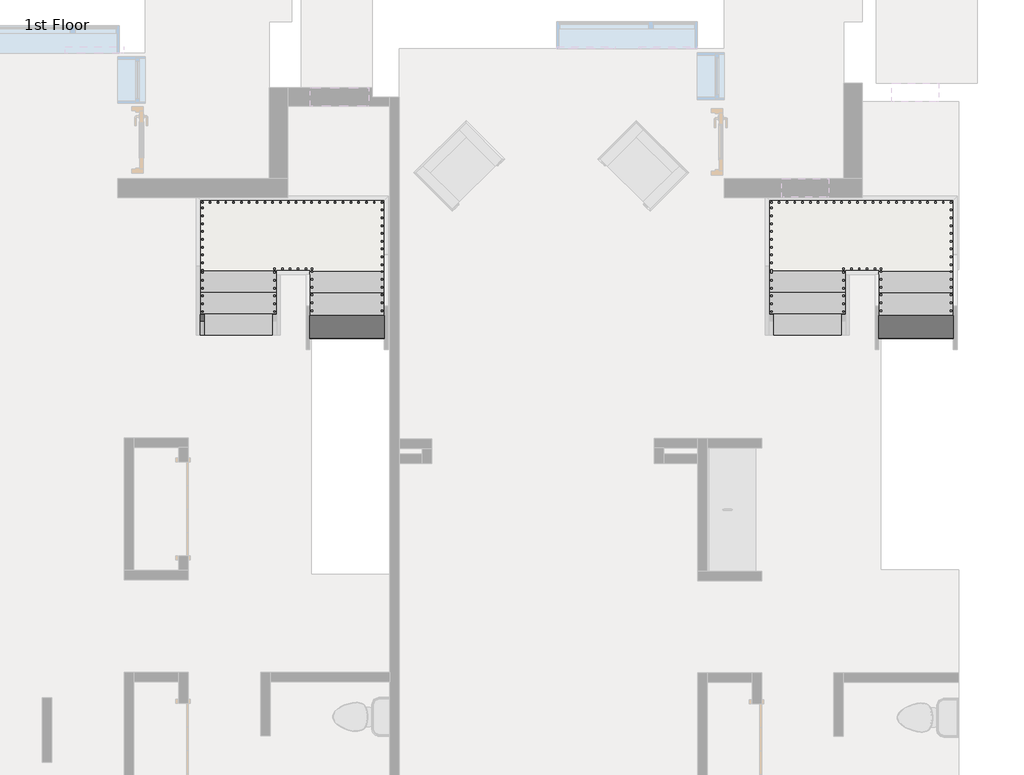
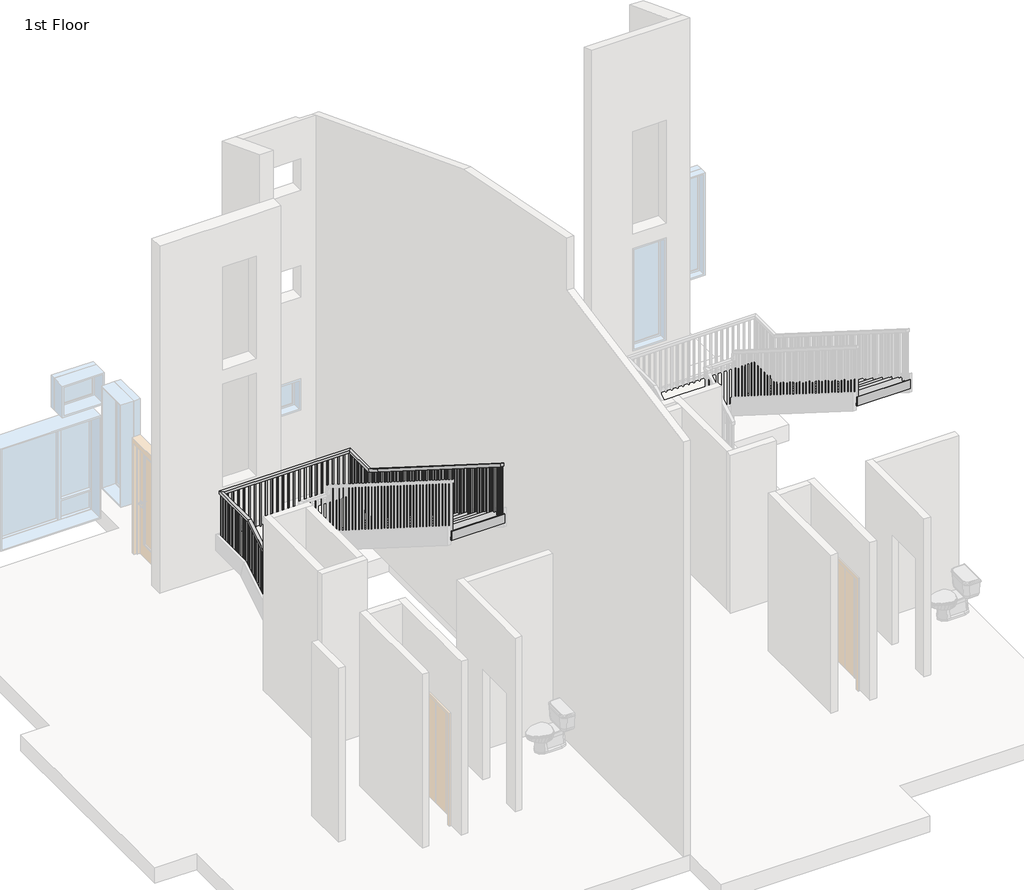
# One storey, part 3 of 6: 4 stair flights, 2 slabs, 1 railing.
"""IFC4 building model written with IfcOpenShell, lengths in millimetres."""

from ifc_helpers import new_model, si_unit, frame, origin, place, context, project, spatial, polyline, outline, extrude, faceted_brep, transform, mapped, element, save
from components import non_monolithic_landing_1753bc63, non_monolithic_landing_b7f252b9, stair_flight_88fc5b64, stair_flight_a2e6100f, stair_flight_c0ce1a1d, stair_flight_e12d16f7

model = new_model("IFC4")

# Units and contexts
model_context = context("Model", 3, world=origin())
ifc_project = project(units=[si_unit("LENGTHUNIT", "METRE", prefix="MILLI")], contexts=[model_context])

# Site, building, storey
site = spatial("IfcSite", under=ifc_project)
building = spatial("IfcBuilding", under=site)
storey = spatial("IfcBuildingStorey", under=building, Name="1st Floor", Elevation=0.0)

# Railing
placement = place(None, origin())
element("IfcRailing", 1, ObjectType="Handrail - Rectangular", at=placement, inside=storey, context=model_context, shape_type="SolidModel", body=[
    faceted_brep([(-4164.1663287, 2721.6563085, 1090.8631579), (-4164.1663287, 2721.6563085, 1030.7795781), (-4113.3663287, 2721.6563085, 1030.7795781), (-4113.3663287, 2721.6563085, 1090.8631579), (-4164.1663287, 3559.8563085, 1620.2526316), (-4164.1663287, 3574.5553099, 1569.4526316), (-4113.3663287, 3574.5553099, 1569.4526316), (-4113.3663287, 3559.8563085, 1620.2526316), (-4164.1663287, 4474.2563085, 1620.2526316), (-4164.1663287, 4474.2563085, 1569.4526316), (-4113.3663287, 4423.4563085, 1569.4526316), (-4113.3663287, 4423.4563085, 1620.2526316), (-1774.5571781, 4474.2563085, 1620.2526316), (-1774.5571781, 4474.2563085, 1569.4526316), (-1825.3571781, 4423.4563085, 1569.4526316), (-1825.3571781, 4423.4563085, 1620.2526316), (-1774.5571781, 3826.0563085, 1620.2526316), (-1774.5571781, 3811.3573071, 1569.4526316), (-1825.3571781, 3811.3573071, 1569.4526316), (-1825.3571781, 3826.0563085, 1620.2526316), (-1774.5571781, 3546.6563085, 1796.7157895), (-1774.5571781, 3519.5294646, 1753.7649532), (-1825.3571781, 3519.5294646, 1753.7649532), (-1825.3571781, 3546.6563085, 1796.7157895), (-1774.5571781, -364.9436915, 4267.2), (-1825.3571781, -364.9436915, 4267.2), (-1825.3571781, -364.9436915, 4207.1164202), (-1774.5571781, -364.9436915, 4207.1164202)], [[[0, 1, 2, 3]], [[1, 0, 4, 5]], [[2, 1, 5, 6]], [[3, 2, 6, 7]], [[0, 3, 7, 4]], [[5, 4, 8, 9]], [[6, 5, 9, 10]], [[7, 6, 10, 11]], [[4, 7, 11, 8]], [[9, 8, 12, 13]], [[10, 9, 13, 14]], [[11, 10, 14, 15]], [[8, 11, 15, 12]], [[13, 12, 16, 17]], [[14, 13, 17, 18]], [[15, 14, 18, 19]], [[12, 15, 19, 16]], [[17, 16, 20, 21]], [[18, 17, 21, 22]], [[19, 18, 22, 23]], [[16, 19, 23, 20]], [[24, 25, 26, 27]], [[21, 20, 24, 27]], [[22, 21, 27, 26]], [[23, 22, 26, 25]], [[20, 23, 25, 24]]]),
    extrude(outline(polyline([(-304.6186915, 4169.0164202), (-304.6186915, 3176.3368421), (-323.6686915, 3176.3368421), (-323.6686915, 4181.0479991), (-304.6186915, 4169.0164202)])), frame((-1809.4821781, 0.0, 0.0), z_axis=(1.0, 0.0, 0.0), x_axis=(0.0, 1.0, 0.0)), (0.0, 0.0, 1.0), 19.05),
    extrude(outline(polyline([(-203.0186915, 4104.8479991), (-203.0186915, 3176.3368421), (-222.0686915, 3176.3368421), (-222.0686915, 4116.8795781), (-203.0186915, 4104.8479991)])), frame((-1809.4821781, 0.0, 0.0), z_axis=(1.0, 0.0, 0.0), x_axis=(0.0, 1.0, 0.0)), (0.0, 0.0, 1.0), 19.05),
    extrude(outline(polyline([(-101.4186915, 4040.6795781), (-101.4186915, 3176.3368421), (-120.4686915, 3176.3368421), (-120.4686915, 4052.711157), (-101.4186915, 4040.6795781)])), frame((-1809.4821781, 0.0, 0.0), z_axis=(1.0, 0.0, 0.0), x_axis=(0.0, 1.0, 0.0)), (0.0, 0.0, 1.0), 19.05),
    extrude(outline(polyline([(0.1813085, 3976.511157), (0.1813085, 2999.8736842), (-18.8686915, 2999.8736842), (-18.8686915, 3988.542736), (0.1813085, 3976.511157)])), frame((-1809.4821781, 0.0, 0.0), z_axis=(1.0, 0.0, 0.0), x_axis=(0.0, 1.0, 0.0)), (0.0, 0.0, 1.0), 19.05),
    extrude(outline(polyline([(101.7813085, 3912.342736), (101.7813085, 2999.8736842), (82.7313085, 2999.8736842), (82.7313085, 3924.3743149), (101.7813085, 3912.342736)])), frame((-1809.4821781, 0.0, 0.0), z_axis=(1.0, 0.0, 0.0), x_axis=(0.0, 1.0, 0.0)), (0.0, 0.0, 1.0), 19.05),
    extrude(outline(polyline([(203.3813085, 3848.1743149), (203.3813085, 2999.8736842), (184.3313085, 2999.8736842), (184.3313085, 3860.2058939), (203.3813085, 3848.1743149)])), frame((-1809.4821781, 0.0, 0.0), z_axis=(1.0, 0.0, 0.0), x_axis=(0.0, 1.0, 0.0)), (0.0, 0.0, 1.0), 19.05),
    extrude(outline(polyline([(304.9813085, 3784.0058939), (304.9813085, 2823.4105263), (285.9313085, 2823.4105263), (285.9313085, 3796.0374728), (304.9813085, 3784.0058939)])), frame((-1809.4821781, 0.0, 0.0), z_axis=(1.0, 0.0, 0.0), x_axis=(0.0, 1.0, 0.0)), (0.0, 0.0, 1.0), 19.05),
    extrude(outline(polyline([(406.5813085, 3719.8374728), (406.5813085, 2823.4105263), (387.5313085, 2823.4105263), (387.5313085, 3731.8690517), (406.5813085, 3719.8374728)])), frame((-1809.4821781, 0.0, 0.0), z_axis=(1.0, 0.0, 0.0), x_axis=(0.0, 1.0, 0.0)), (0.0, 0.0, 1.0), 19.05),
    extrude(outline(polyline([(508.1813085, 3655.6690517), (508.1813085, 2646.9473684), (489.1313085, 2646.9473684), (489.1313085, 3667.7006307), (508.1813085, 3655.6690517)])), frame((-1809.4821781, 0.0, 0.0), z_axis=(1.0, 0.0, 0.0), x_axis=(0.0, 1.0, 0.0)), (0.0, 0.0, 1.0), 19.05),
    extrude(outline(polyline([(609.7813085, 3591.5006307), (609.7813085, 2646.9473684), (590.7313085, 2646.9473684), (590.7313085, 3603.5322096), (609.7813085, 3591.5006307)])), frame((-1809.4821781, 0.0, 0.0), z_axis=(1.0, 0.0, 0.0), x_axis=(0.0, 1.0, 0.0)), (0.0, 0.0, 1.0), 19.05),
    extrude(outline(polyline([(711.3813085, 3527.3322096), (711.3813085, 2646.9473684), (692.3313085, 2646.9473684), (692.3313085, 3539.3637886), (711.3813085, 3527.3322096)])), frame((-1809.4821781, 0.0, 0.0), z_axis=(1.0, 0.0, 0.0), x_axis=(0.0, 1.0, 0.0)), (0.0, 0.0, 1.0), 19.05),
    extrude(outline(polyline([(812.9813085, 3463.1637886), (812.9813085, 2470.4842105), (793.9313085, 2470.4842105), (793.9313085, 3475.1953675), (812.9813085, 3463.1637886)])), frame((-1809.4821781, 0.0, 0.0), z_axis=(1.0, 0.0, 0.0), x_axis=(0.0, 1.0, 0.0)), (0.0, 0.0, 1.0), 19.05),
    extrude(outline(polyline([(914.5813085, 3398.9953675), (914.5813085, 2470.4842105), (895.5313085, 2470.4842105), (895.5313085, 3411.0269465), (914.5813085, 3398.9953675)])), frame((-1809.4821781, 0.0, 0.0), z_axis=(1.0, 0.0, 0.0), x_axis=(0.0, 1.0, 0.0)), (0.0, 0.0, 1.0), 19.05),
    extrude(outline(polyline([(1016.1813085, 3334.8269465), (1016.1813085, 2470.4842105), (997.1313085, 2470.4842105), (997.1313085, 3346.8585254), (1016.1813085, 3334.8269465)])), frame((-1809.4821781, 0.0, 0.0), z_axis=(1.0, 0.0, 0.0), x_axis=(0.0, 1.0, 0.0)), (0.0, 0.0, 1.0), 19.05),
    extrude(outline(polyline([(1117.7813085, 3270.6585254), (1117.7813085, 2294.0210526), (1098.7313085, 2294.0210526), (1098.7313085, 3282.6901044), (1117.7813085, 3270.6585254)])), frame((-1809.4821781, 0.0, 0.0), z_axis=(1.0, 0.0, 0.0), x_axis=(0.0, 1.0, 0.0)), (0.0, 0.0, 1.0), 19.05),
    extrude(outline(polyline([(1219.3813085, 3206.4901044), (1219.3813085, 2294.0210526), (1200.3313085, 2294.0210526), (1200.3313085, 3218.5216833), (1219.3813085, 3206.4901044)])), frame((-1809.4821781, 0.0, 0.0), z_axis=(1.0, 0.0, 0.0), x_axis=(0.0, 1.0, 0.0)), (0.0, 0.0, 1.0), 19.05),
    extrude(outline(polyline([(1320.9813085, 3142.3216833), (1320.9813085, 2294.0210526), (1301.9313085, 2294.0210526), (1301.9313085, 3154.3532623), (1320.9813085, 3142.3216833)])), frame((-1809.4821781, 0.0, 0.0), z_axis=(1.0, 0.0, 0.0), x_axis=(0.0, 1.0, 0.0)), (0.0, 0.0, 1.0), 19.05),
    extrude(outline(polyline([(1422.5813085, 3078.1532623), (1422.5813085, 2117.5578947), (1403.5313085, 2117.5578947), (1403.5313085, 3090.1848412), (1422.5813085, 3078.1532623)])), frame((-1809.4821781, 0.0, 0.0), z_axis=(1.0, 0.0, 0.0), x_axis=(0.0, 1.0, 0.0)), (0.0, 0.0, 1.0), 19.05),
    extrude(outline(polyline([(1524.1813085, 3013.9848412), (1524.1813085, 2117.5578947), (1505.1313085, 2117.5578947), (1505.1313085, 3026.0164202), (1524.1813085, 3013.9848412)])), frame((-1809.4821781, 0.0, 0.0), z_axis=(1.0, 0.0, 0.0), x_axis=(0.0, 1.0, 0.0)), (0.0, 0.0, 1.0), 19.05),
    extrude(outline(polyline([(1625.7813085, 2949.8164202), (1625.7813085, 1941.0947368), (1606.7313085, 1941.0947368), (1606.7313085, 2961.8479991), (1625.7813085, 2949.8164202)])), frame((-1809.4821781, 0.0, 0.0), z_axis=(1.0, 0.0, 0.0), x_axis=(0.0, 1.0, 0.0)), (0.0, 0.0, 1.0), 19.05),
    extrude(outline(polyline([(1727.3813085, 2885.6479991), (1727.3813085, 1941.0947368), (1708.3313085, 1941.0947368), (1708.3313085, 2897.6795781), (1727.3813085, 2885.6479991)])), frame((-1809.4821781, 0.0, 0.0), z_axis=(1.0, 0.0, 0.0), x_axis=(0.0, 1.0, 0.0)), (0.0, 0.0, 1.0), 19.05),
    extrude(outline(polyline([(1828.9813085, 2821.4795781), (1828.9813085, 1941.0947368), (1809.9313085, 1941.0947368), (1809.9313085, 2833.511157), (1828.9813085, 2821.4795781)])), frame((-1809.4821781, 0.0, 0.0), z_axis=(1.0, 0.0, 0.0), x_axis=(0.0, 1.0, 0.0)), (0.0, 0.0, 1.0), 19.05),
    extrude(outline(polyline([(1930.5813085, 2757.311157), (1930.5813085, 1764.6315789), (1911.5313085, 1764.6315789), (1911.5313085, 2769.342736), (1930.5813085, 2757.311157)])), frame((-1809.4821781, 0.0, 0.0), z_axis=(1.0, 0.0, 0.0), x_axis=(0.0, 1.0, 0.0)), (0.0, 0.0, 1.0), 19.05),
    extrude(outline(polyline([(2032.1813085, 2693.142736), (2032.1813085, 1764.6315789), (2013.1313085, 1764.6315789), (2013.1313085, 2705.1743149), (2032.1813085, 2693.142736)])), frame((-1809.4821781, 0.0, 0.0), z_axis=(1.0, 0.0, 0.0), x_axis=(0.0, 1.0, 0.0)), (0.0, 0.0, 1.0), 19.05),
    extrude(outline(polyline([(2133.7813085, 2628.9743149), (2133.7813085, 1764.6315789), (2114.7313085, 1764.6315789), (2114.7313085, 2641.0058939), (2133.7813085, 2628.9743149)])), frame((-1809.4821781, 0.0, 0.0), z_axis=(1.0, 0.0, 0.0), x_axis=(0.0, 1.0, 0.0)), (0.0, 0.0, 1.0), 19.05),
    extrude(outline(polyline([(2235.3813085, 2564.8058939), (2235.3813085, 1588.1684211), (2216.3313085, 1588.1684211), (2216.3313085, 2576.8374728), (2235.3813085, 2564.8058939)])), frame((-1809.4821781, 0.0, 0.0), z_axis=(1.0, 0.0, 0.0), x_axis=(0.0, 1.0, 0.0)), (0.0, 0.0, 1.0), 19.05),
    extrude(outline(polyline([(2336.9813085, 2500.6374728), (2336.9813085, 1588.1684211), (2317.9313085, 1588.1684211), (2317.9313085, 2512.6690517), (2336.9813085, 2500.6374728)])), frame((-1809.4821781, 0.0, 0.0), z_axis=(1.0, 0.0, 0.0), x_axis=(0.0, 1.0, 0.0)), (0.0, 0.0, 1.0), 19.05),
    extrude(outline(polyline([(2438.5813085, 2436.4690517), (2438.5813085, 1588.1684211), (2419.5313085, 1588.1684211), (2419.5313085, 2448.5006307), (2438.5813085, 2436.4690517)])), frame((-1809.4821781, 0.0, 0.0), z_axis=(1.0, 0.0, 0.0), x_axis=(0.0, 1.0, 0.0)), (0.0, 0.0, 1.0), 19.05),
    extrude(outline(polyline([(2540.1813085, 2372.3006307), (2540.1813085, 1411.7052632), (2521.1313085, 1411.7052632), (2521.1313085, 2384.3322096), (2540.1813085, 2372.3006307)])), frame((-1809.4821781, 0.0, 0.0), z_axis=(1.0, 0.0, 0.0), x_axis=(0.0, 1.0, 0.0)), (0.0, 0.0, 1.0), 19.05),
    extrude(outline(polyline([(2641.7813085, 2308.1322096), (2641.7813085, 1411.7052632), (2622.7313085, 1411.7052632), (2622.7313085, 2320.1637886), (2641.7813085, 2308.1322096)])), frame((-1809.4821781, 0.0, 0.0), z_axis=(1.0, 0.0, 0.0), x_axis=(0.0, 1.0, 0.0)), (0.0, 0.0, 1.0), 19.05),
    extrude(outline(polyline([(2743.3813085, 2243.9637886), (2743.3813085, 1235.2421053), (2724.3313085, 1235.2421053), (2724.3313085, 2255.9953675), (2743.3813085, 2243.9637886)])), frame((-1809.4821781, 0.0, 0.0), z_axis=(1.0, 0.0, 0.0), x_axis=(0.0, 1.0, 0.0)), (0.0, 0.0, 1.0), 19.05),
    extrude(outline(polyline([(2844.9813085, 2179.7953675), (2844.9813085, 1235.2421053), (2825.9313085, 1235.2421053), (2825.9313085, 2191.8269465), (2844.9813085, 2179.7953675)])), frame((-1809.4821781, 0.0, 0.0), z_axis=(1.0, 0.0, 0.0), x_axis=(0.0, 1.0, 0.0)), (0.0, 0.0, 1.0), 19.05),
    extrude(outline(polyline([(2946.5813085, 2115.6269465), (2946.5813085, 1235.2421053), (2927.5313085, 1235.2421053), (2927.5313085, 2127.6585254), (2946.5813085, 2115.6269465)])), frame((-1809.4821781, 0.0, 0.0), z_axis=(1.0, 0.0, 0.0), x_axis=(0.0, 1.0, 0.0)), (0.0, 0.0, 1.0), 19.05),
    extrude(outline(polyline([(3048.1813085, 2051.4585254), (3048.1813085, 1058.7789474), (3029.1313085, 1058.7789474), (3029.1313085, 2063.4901044), (3048.1813085, 2051.4585254)])), frame((-1809.4821781, 0.0, 0.0), z_axis=(1.0, 0.0, 0.0), x_axis=(0.0, 1.0, 0.0)), (0.0, 0.0, 1.0), 19.05),
    extrude(outline(polyline([(3149.7813085, 1987.2901044), (3149.7813085, 1058.7789474), (3130.7313085, 1058.7789474), (3130.7313085, 1999.3216833), (3149.7813085, 1987.2901044)])), frame((-1809.4821781, 0.0, 0.0), z_axis=(1.0, 0.0, 0.0), x_axis=(0.0, 1.0, 0.0)), (0.0, 0.0, 1.0), 19.05),
    extrude(outline(polyline([(3251.3813085, 1923.1216833), (3251.3813085, 1058.7789474), (3232.3313085, 1058.7789474), (3232.3313085, 1935.1532623), (3251.3813085, 1923.1216833)])), frame((-1809.4821781, 0.0, 0.0), z_axis=(1.0, 0.0, 0.0), x_axis=(0.0, 1.0, 0.0)), (0.0, 0.0, 1.0), 19.05),
    extrude(outline(polyline([(3352.9813085, 1858.9532623), (3352.9813085, 882.3157895), (3333.9313085, 882.3157895), (3333.9313085, 1870.9848412), (3352.9813085, 1858.9532623)])), frame((-1809.4821781, 0.0, 0.0), z_axis=(1.0, 0.0, 0.0), x_axis=(0.0, 1.0, 0.0)), (0.0, 0.0, 1.0), 19.05),
    extrude(outline(polyline([(3454.5813085, 1794.7848412), (3454.5813085, 882.3157895), (3435.5313085, 882.3157895), (3435.5313085, 1806.8164202), (3454.5813085, 1794.7848412)])), frame((-1809.4821781, 0.0, 0.0), z_axis=(1.0, 0.0, 0.0), x_axis=(0.0, 1.0, 0.0)), (0.0, 0.0, 1.0), 19.05),
    extrude(outline(polyline([(3645.5813085, 1674.1532623), (3645.5813085, 705.8526316), (3626.5313085, 705.8526316), (3626.5313085, 1686.1848412), (3645.5813085, 1674.1532623)])), frame((-1809.4821781, 0.0, 0.0), z_axis=(1.0, 0.0, 0.0), x_axis=(0.0, 1.0, 0.0)), (0.0, 0.0, 1.0), 19.05),
    extrude(outline(polyline([(3747.1813085, 1609.9848412), (3747.1813085, 705.8526316), (3728.1313085, 705.8526316), (3728.1313085, 1622.0164202), (3747.1813085, 1609.9848412)])), frame((-1809.4821781, 0.0, 0.0), z_axis=(1.0, 0.0, 0.0), x_axis=(0.0, 1.0, 0.0)), (0.0, 0.0, 1.0), 19.05),
    extrude(outline(polyline([(-1790.4321781, 3848.7813085), (-1790.4321781, 3829.7313085), (-1809.4821781, 3829.7313085), (-1809.4821781, 3848.7813085), (-1790.4321781, 3848.7813085)])), frame((0.0, 0.0, 705.8526316), z_axis=(0.0, 0.0, 1.0), x_axis=(1.0, 0.0, 0.0)), (0.0, 0.0, 1.0), 863.6),
    extrude(outline(polyline([(-1790.4321781, 3950.3813085), (-1790.4321781, 3931.3313085), (-1809.4821781, 3931.3313085), (-1809.4821781, 3950.3813085), (-1790.4321781, 3950.3813085)])), frame((0.0, 0.0, 705.8526316), z_axis=(0.0, 0.0, 1.0), x_axis=(1.0, 0.0, 0.0)), (0.0, 0.0, 1.0), 863.6),
    extrude(outline(polyline([(-1790.4321781, 4051.9813085), (-1790.4321781, 4032.9313085), (-1809.4821781, 4032.9313085), (-1809.4821781, 4051.9813085), (-1790.4321781, 4051.9813085)])), frame((0.0, 0.0, 705.8526316), z_axis=(0.0, 0.0, 1.0), x_axis=(1.0, 0.0, 0.0)), (0.0, 0.0, 1.0), 863.6),
    extrude(outline(polyline([(-1790.4321781, 4153.5813085), (-1790.4321781, 4134.5313085), (-1809.4821781, 4134.5313085), (-1809.4821781, 4153.5813085), (-1790.4321781, 4153.5813085)])), frame((0.0, 0.0, 705.8526316), z_axis=(0.0, 0.0, 1.0), x_axis=(1.0, 0.0, 0.0)), (0.0, 0.0, 1.0), 863.6),
    extrude(outline(polyline([(-1790.4321781, 4255.1813085), (-1790.4321781, 4236.1313085), (-1809.4821781, 4236.1313085), (-1809.4821781, 4255.1813085), (-1790.4321781, 4255.1813085)])), frame((0.0, 0.0, 705.8526316), z_axis=(0.0, 0.0, 1.0), x_axis=(1.0, 0.0, 0.0)), (0.0, 0.0, 1.0), 863.6),
    extrude(outline(polyline([(-1790.4321781, 4356.7813085), (-1790.4321781, 4337.7313085), (-1809.4821781, 4337.7313085), (-1809.4821781, 4356.7813085), (-1790.4321781, 4356.7813085)])), frame((0.0, 0.0, 705.8526316), z_axis=(0.0, 0.0, 1.0), x_axis=(1.0, 0.0, 0.0)), (0.0, 0.0, 1.0), 863.6),
    extrude(outline(polyline([(-1811.4913287, 4458.3813085), (-1792.4413287, 4458.3813085), (-1792.4413287, 4439.3313085), (-1811.4913287, 4439.3313085), (-1811.4913287, 4458.3813085)])), frame((0.0, 0.0, 705.8526316), z_axis=(0.0, 0.0, 1.0), x_axis=(1.0, 0.0, 0.0)), (0.0, 0.0, 1.0), 863.6),
    extrude(outline(polyline([(-1913.0913287, 4458.3813085), (-1894.0413287, 4458.3813085), (-1894.0413287, 4439.3313085), (-1913.0913287, 4439.3313085), (-1913.0913287, 4458.3813085)])), frame((0.0, 0.0, 705.8526316), z_axis=(0.0, 0.0, 1.0), x_axis=(1.0, 0.0, 0.0)), (0.0, 0.0, 1.0), 863.6),
    extrude(outline(polyline([(-2014.6913287, 4458.3813085), (-1995.6413287, 4458.3813085), (-1995.6413287, 4439.3313085), (-2014.6913287, 4439.3313085), (-2014.6913287, 4458.3813085)])), frame((0.0, 0.0, 705.8526316), z_axis=(0.0, 0.0, 1.0), x_axis=(1.0, 0.0, 0.0)), (0.0, 0.0, 1.0), 863.6),
    extrude(outline(polyline([(-2116.2913287, 4458.3813085), (-2097.2413287, 4458.3813085), (-2097.2413287, 4439.3313085), (-2116.2913287, 4439.3313085), (-2116.2913287, 4458.3813085)])), frame((0.0, 0.0, 705.8526316), z_axis=(0.0, 0.0, 1.0), x_axis=(1.0, 0.0, 0.0)), (0.0, 0.0, 1.0), 863.6),
    extrude(outline(polyline([(-2217.8913287, 4458.3813085), (-2198.8413287, 4458.3813085), (-2198.8413287, 4439.3313085), (-2217.8913287, 4439.3313085), (-2217.8913287, 4458.3813085)])), frame((0.0, 0.0, 705.8526316), z_axis=(0.0, 0.0, 1.0), x_axis=(1.0, 0.0, 0.0)), (0.0, 0.0, 1.0), 863.6),
    extrude(outline(polyline([(-2319.4913287, 4458.3813085), (-2300.4413287, 4458.3813085), (-2300.4413287, 4439.3313085), (-2319.4913287, 4439.3313085), (-2319.4913287, 4458.3813085)])), frame((0.0, 0.0, 705.8526316), z_axis=(0.0, 0.0, 1.0), x_axis=(1.0, 0.0, 0.0)), (0.0, 0.0, 1.0), 863.6),
    extrude(outline(polyline([(-2421.0913287, 4458.3813085), (-2402.0413287, 4458.3813085), (-2402.0413287, 4439.3313085), (-2421.0913287, 4439.3313085), (-2421.0913287, 4458.3813085)])), frame((0.0, 0.0, 705.8526316), z_axis=(0.0, 0.0, 1.0), x_axis=(1.0, 0.0, 0.0)), (0.0, 0.0, 1.0), 863.6),
    extrude(outline(polyline([(-2522.6913287, 4458.3813085), (-2503.6413287, 4458.3813085), (-2503.6413287, 4439.3313085), (-2522.6913287, 4439.3313085), (-2522.6913287, 4458.3813085)])), frame((0.0, 0.0, 705.8526316), z_axis=(0.0, 0.0, 1.0), x_axis=(1.0, 0.0, 0.0)), (0.0, 0.0, 1.0), 863.6),
    extrude(outline(polyline([(-2624.2913287, 4458.3813085), (-2605.2413287, 4458.3813085), (-2605.2413287, 4439.3313085), (-2624.2913287, 4439.3313085), (-2624.2913287, 4458.3813085)])), frame((0.0, 0.0, 705.8526316), z_axis=(0.0, 0.0, 1.0), x_axis=(1.0, 0.0, 0.0)), (0.0, 0.0, 1.0), 863.6),
    extrude(outline(polyline([(-2725.8913287, 4458.3813085), (-2706.8413287, 4458.3813085), (-2706.8413287, 4439.3313085), (-2725.8913287, 4439.3313085), (-2725.8913287, 4458.3813085)])), frame((0.0, 0.0, 705.8526316), z_axis=(0.0, 0.0, 1.0), x_axis=(1.0, 0.0, 0.0)), (0.0, 0.0, 1.0), 863.6),
    extrude(outline(polyline([(-2827.4913287, 4458.3813085), (-2808.4413287, 4458.3813085), (-2808.4413287, 4439.3313085), (-2827.4913287, 4439.3313085), (-2827.4913287, 4458.3813085)])), frame((0.0, 0.0, 705.8526316), z_axis=(0.0, 0.0, 1.0), x_axis=(1.0, 0.0, 0.0)), (0.0, 0.0, 1.0), 863.6),
    extrude(outline(polyline([(-2929.0913287, 4458.3813085), (-2910.0413287, 4458.3813085), (-2910.0413287, 4439.3313085), (-2929.0913287, 4439.3313085), (-2929.0913287, 4458.3813085)])), frame((0.0, 0.0, 705.8526316), z_axis=(0.0, 0.0, 1.0), x_axis=(1.0, 0.0, 0.0)), (0.0, 0.0, 1.0), 863.6),
    extrude(outline(polyline([(-3030.6913287, 4458.3813085), (-3011.6413287, 4458.3813085), (-3011.6413287, 4439.3313085), (-3030.6913287, 4439.3313085), (-3030.6913287, 4458.3813085)])), frame((0.0, 0.0, 705.8526316), z_axis=(0.0, 0.0, 1.0), x_axis=(1.0, 0.0, 0.0)), (0.0, 0.0, 1.0), 863.6),
    extrude(outline(polyline([(-3132.2913287, 4458.3813085), (-3113.2413287, 4458.3813085), (-3113.2413287, 4439.3313085), (-3132.2913287, 4439.3313085), (-3132.2913287, 4458.3813085)])), frame((0.0, 0.0, 705.8526316), z_axis=(0.0, 0.0, 1.0), x_axis=(1.0, 0.0, 0.0)), (0.0, 0.0, 1.0), 863.6),
    extrude(outline(polyline([(-3233.8913287, 4458.3813085), (-3214.8413287, 4458.3813085), (-3214.8413287, 4439.3313085), (-3233.8913287, 4439.3313085), (-3233.8913287, 4458.3813085)])), frame((0.0, 0.0, 705.8526316), z_axis=(0.0, 0.0, 1.0), x_axis=(1.0, 0.0, 0.0)), (0.0, 0.0, 1.0), 863.6),
    extrude(outline(polyline([(-3335.4913287, 4458.3813085), (-3316.4413287, 4458.3813085), (-3316.4413287, 4439.3313085), (-3335.4913287, 4439.3313085), (-3335.4913287, 4458.3813085)])), frame((0.0, 0.0, 705.8526316), z_axis=(0.0, 0.0, 1.0), x_axis=(1.0, 0.0, 0.0)), (0.0, 0.0, 1.0), 863.6),
    extrude(outline(polyline([(-3437.0913287, 4458.3813085), (-3418.0413287, 4458.3813085), (-3418.0413287, 4439.3313085), (-3437.0913287, 4439.3313085), (-3437.0913287, 4458.3813085)])), frame((0.0, 0.0, 705.8526316), z_axis=(0.0, 0.0, 1.0), x_axis=(1.0, 0.0, 0.0)), (0.0, 0.0, 1.0), 863.6),
    extrude(outline(polyline([(-3538.6913287, 4458.3813085), (-3519.6413287, 4458.3813085), (-3519.6413287, 4439.3313085), (-3538.6913287, 4439.3313085), (-3538.6913287, 4458.3813085)])), frame((0.0, 0.0, 705.8526316), z_axis=(0.0, 0.0, 1.0), x_axis=(1.0, 0.0, 0.0)), (0.0, 0.0, 1.0), 863.6),
    extrude(outline(polyline([(-3640.2913287, 4458.3813085), (-3621.2413287, 4458.3813085), (-3621.2413287, 4439.3313085), (-3640.2913287, 4439.3313085), (-3640.2913287, 4458.3813085)])), frame((0.0, 0.0, 705.8526316), z_axis=(0.0, 0.0, 1.0), x_axis=(1.0, 0.0, 0.0)), (0.0, 0.0, 1.0), 863.6),
    extrude(outline(polyline([(-3741.8913287, 4458.3813085), (-3722.8413287, 4458.3813085), (-3722.8413287, 4439.3313085), (-3741.8913287, 4439.3313085), (-3741.8913287, 4458.3813085)])), frame((0.0, 0.0, 705.8526316), z_axis=(0.0, 0.0, 1.0), x_axis=(1.0, 0.0, 0.0)), (0.0, 0.0, 1.0), 863.6),
    extrude(outline(polyline([(-3843.4913287, 4458.3813085), (-3824.4413287, 4458.3813085), (-3824.4413287, 4439.3313085), (-3843.4913287, 4439.3313085), (-3843.4913287, 4458.3813085)])), frame((0.0, 0.0, 705.8526316), z_axis=(0.0, 0.0, 1.0), x_axis=(1.0, 0.0, 0.0)), (0.0, 0.0, 1.0), 863.6),
    extrude(outline(polyline([(-3945.0913287, 4458.3813085), (-3926.0413287, 4458.3813085), (-3926.0413287, 4439.3313085), (-3945.0913287, 4439.3313085), (-3945.0913287, 4458.3813085)])), frame((0.0, 0.0, 705.8526316), z_axis=(0.0, 0.0, 1.0), x_axis=(1.0, 0.0, 0.0)), (0.0, 0.0, 1.0), 863.6),
    extrude(outline(polyline([(-4046.6913287, 4458.3813085), (-4027.6413287, 4458.3813085), (-4027.6413287, 4439.3313085), (-4046.6913287, 4439.3313085), (-4046.6913287, 4458.3813085)])), frame((0.0, 0.0, 705.8526316), z_axis=(0.0, 0.0, 1.0), x_axis=(1.0, 0.0, 0.0)), (0.0, 0.0, 1.0), 863.6),
    extrude(outline(polyline([(-4148.2913287, 4363.1313085), (-4148.2913287, 4382.1813085), (-4129.2413287, 4382.1813085), (-4129.2413287, 4363.1313085), (-4148.2913287, 4363.1313085)])), frame((0.0, 0.0, 705.8526316), z_axis=(0.0, 0.0, 1.0), x_axis=(1.0, 0.0, 0.0)), (0.0, 0.0, 1.0), 863.6),
    extrude(outline(polyline([(-4148.2913287, 4261.5313085), (-4148.2913287, 4280.5813085), (-4129.2413287, 4280.5813085), (-4129.2413287, 4261.5313085), (-4148.2913287, 4261.5313085)])), frame((0.0, 0.0, 705.8526316), z_axis=(0.0, 0.0, 1.0), x_axis=(1.0, 0.0, 0.0)), (0.0, 0.0, 1.0), 863.6),
    extrude(outline(polyline([(-4148.2913287, 4159.9313085), (-4148.2913287, 4178.9813085), (-4129.2413287, 4178.9813085), (-4129.2413287, 4159.9313085), (-4148.2913287, 4159.9313085)])), frame((0.0, 0.0, 705.8526316), z_axis=(0.0, 0.0, 1.0), x_axis=(1.0, 0.0, 0.0)), (0.0, 0.0, 1.0), 863.6),
    extrude(outline(polyline([(-4148.2913287, 4058.3313085), (-4148.2913287, 4077.3813085), (-4129.2413287, 4077.3813085), (-4129.2413287, 4058.3313085), (-4148.2913287, 4058.3313085)])), frame((0.0, 0.0, 705.8526316), z_axis=(0.0, 0.0, 1.0), x_axis=(1.0, 0.0, 0.0)), (0.0, 0.0, 1.0), 863.6),
    extrude(outline(polyline([(-4148.2913287, 3956.7313085), (-4148.2913287, 3975.7813085), (-4129.2413287, 3975.7813085), (-4129.2413287, 3956.7313085), (-4148.2913287, 3956.7313085)])), frame((0.0, 0.0, 705.8526316), z_axis=(0.0, 0.0, 1.0), x_axis=(1.0, 0.0, 0.0)), (0.0, 0.0, 1.0), 863.6),
    extrude(outline(polyline([(-4148.2913287, 3855.1313085), (-4148.2913287, 3874.1813085), (-4129.2413287, 3874.1813085), (-4129.2413287, 3855.1313085), (-4148.2913287, 3855.1313085)])), frame((0.0, 0.0, 705.8526316), z_axis=(0.0, 0.0, 1.0), x_axis=(1.0, 0.0, 0.0)), (0.0, 0.0, 1.0), 863.6),
    extrude(outline(polyline([(-4148.2913287, 3753.5313085), (-4148.2913287, 3772.5813085), (-4129.2413287, 3772.5813085), (-4129.2413287, 3753.5313085), (-4148.2913287, 3753.5313085)])), frame((0.0, 0.0, 705.8526316), z_axis=(0.0, 0.0, 1.0), x_axis=(1.0, 0.0, 0.0)), (0.0, 0.0, 1.0), 863.6),
    extrude(outline(polyline([(-4148.2913287, 3651.9313085), (-4148.2913287, 3670.9813085), (-4129.2413287, 3670.9813085), (-4129.2413287, 3651.9313085), (-4148.2913287, 3651.9313085)])), frame((0.0, 0.0, 705.8526316), z_axis=(0.0, 0.0, 1.0), x_axis=(1.0, 0.0, 0.0)), (0.0, 0.0, 1.0), 863.6),
    extrude(outline(polyline([(3543.9813085, 1550.142736), (3543.9813085, 529.3894737), (3524.9313085, 529.3894737), (3524.9313085, 1538.111157), (3543.9813085, 1550.142736)])), frame((-4148.2913287, 0.0, 0.0), z_axis=(1.0, 0.0, 0.0), x_axis=(0.0, 1.0, 0.0)), (0.0, 0.0, 1.0), 19.05),
    extrude(outline(polyline([(3442.3813085, 1485.9743149), (3442.3813085, 529.3894737), (3423.3313085, 529.3894737), (3423.3313085, 1473.942736), (3442.3813085, 1485.9743149)])), frame((-4148.2913287, 0.0, 0.0), z_axis=(1.0, 0.0, 0.0), x_axis=(0.0, 1.0, 0.0)), (0.0, 0.0, 1.0), 19.05),
    extrude(outline(polyline([(3340.7813085, 1421.8058939), (3340.7813085, 529.3894737), (3321.7313085, 529.3894737), (3321.7313085, 1409.7743149), (3340.7813085, 1421.8058939)])), frame((-4148.2913287, 0.0, 0.0), z_axis=(1.0, 0.0, 0.0), x_axis=(0.0, 1.0, 0.0)), (0.0, 0.0, 1.0), 19.05),
    extrude(outline(polyline([(3239.1813085, 1357.6374728), (3239.1813085, 352.9263158), (3220.1313085, 352.9263158), (3220.1313085, 1345.6058939), (3239.1813085, 1357.6374728)])), frame((-4148.2913287, 0.0, 0.0), z_axis=(1.0, 0.0, 0.0), x_axis=(0.0, 1.0, 0.0)), (0.0, 0.0, 1.0), 19.05),
    extrude(outline(polyline([(3137.5813085, 1293.4690517), (3137.5813085, 352.9263158), (3118.5313085, 352.9263158), (3118.5313085, 1281.4374728), (3137.5813085, 1293.4690517)])), frame((-4148.2913287, 0.0, 0.0), z_axis=(1.0, 0.0, 0.0), x_axis=(0.0, 1.0, 0.0)), (0.0, 0.0, 1.0), 19.05),
    extrude(outline(polyline([(3035.9813085, 1229.3006307), (3035.9813085, 352.9263158), (3016.9313085, 352.9263158), (3016.9313085, 1217.2690517), (3035.9813085, 1229.3006307)])), frame((-4148.2913287, 0.0, 0.0), z_axis=(1.0, 0.0, 0.0), x_axis=(0.0, 1.0, 0.0)), (0.0, 0.0, 1.0), 19.05),
    extrude(outline(polyline([(2934.3813085, 1165.1322096), (2934.3813085, 176.4631579), (2915.3313085, 176.4631579), (2915.3313085, 1153.1006307), (2934.3813085, 1165.1322096)])), frame((-4148.2913287, 0.0, 0.0), z_axis=(1.0, 0.0, 0.0), x_axis=(0.0, 1.0, 0.0)), (0.0, 0.0, 1.0), 19.05),
    extrude(outline(polyline([(2832.7813085, 1100.9637886), (2832.7813085, 176.4631579), (2813.7313085, 176.4631579), (2813.7313085, 1088.9322096), (2832.7813085, 1100.9637886)])), frame((-4148.2913287, 0.0, 0.0), z_axis=(1.0, 0.0, 0.0), x_axis=(0.0, 1.0, 0.0)), (0.0, 0.0, 1.0), 19.05),
    extrude(outline(polyline([(3556.1813085, 1730.6164202), (3556.1813085, 705.8526316), (3537.1313085, 705.8526316), (3537.1313085, 1742.6479991), (3556.1813085, 1730.6164202)])), frame((-1809.4821781, 0.0, 0.0), z_axis=(1.0, 0.0, 0.0), x_axis=(0.0, 1.0, 0.0)), (0.0, 0.0, 1.0), 19.05),
    extrude(outline(polyline([(-1809.4821781, 4458.3813085), (-1790.4321781, 4458.3813085), (-1790.4321781, 4439.3313085), (-1809.4821781, 4439.3313085), (-1809.4821781, 4458.3813085)])), frame((0.0, 0.0, 705.8526316), z_axis=(0.0, 0.0, 1.0), x_axis=(1.0, 0.0, 0.0)), (0.0, 0.0, 1.0), 863.6),
    extrude(outline(polyline([(-4148.2913287, 4439.3313085), (-4148.2913287, 4458.3813085), (-4129.2413287, 4458.3813085), (-4129.2413287, 4439.3313085), (-4148.2913287, 4439.3313085)])), frame((0.0, 0.0, 705.8526316), z_axis=(0.0, 0.0, 1.0), x_axis=(1.0, 0.0, 0.0)), (0.0, 0.0, 1.0), 863.6),
    extrude(outline(polyline([(3569.3813085, 1566.1848412), (3569.3813085, 705.8526316), (3550.3313085, 705.8526316), (3550.3313085, 1554.1532623), (3569.3813085, 1566.1848412)])), frame((-4148.2913287, 0.0, 0.0), z_axis=(1.0, 0.0, 0.0), x_axis=(0.0, 1.0, 0.0)), (0.0, 0.0, 1.0), 19.05),
    extrude(outline(polyline([(-345.8936915, 4195.0848412), (-345.8936915, 3176.3368421), (-364.9436915, 3176.3368421), (-364.9436915, 4207.1164202), (-345.8936915, 4195.0848412)])), frame((-1809.4821781, 0.0, 0.0), z_axis=(1.0, 0.0, 0.0), x_axis=(0.0, 1.0, 0.0)), (0.0, 0.0, 1.0), 19.05),
    extrude(outline(polyline([(2740.7063085, 1042.811157), (2740.7063085, 176.4631579), (2721.6563085, 176.4631579), (2721.6563085, 1030.7795781), (2740.7063085, 1042.811157)])), frame((-4148.2913287, 0.0, 0.0), z_axis=(1.0, 0.0, 0.0), x_axis=(0.0, 1.0, 0.0)), (0.0, 0.0, 1.0), 19.05),
])

# Slabs
non_monolithic_landing_shape = non_monolithic_landing_1753bc63(model_context)
element("IfcSlab", 2, ObjectType="Non-Monolithic Landing", at=placement, inside=storey, context=model_context, shape_type="MappedRepresentation", body=[
    mapped(non_monolithic_landing_shape, transform((0.0, 0.0, 0.0), x_axis=(1.0, 0.0, 0.0), y_axis=(0.0, 1.0, 0.0), z_axis=(0.0, 0.0, 1.0))),
])
non_monolithic_landing_2_shape = non_monolithic_landing_b7f252b9(model_context)
element("IfcSlab", 3, ObjectType="Non-Monolithic Landing", at=placement, inside=storey, context=model_context, shape_type="MappedRepresentation", body=[
    mapped(non_monolithic_landing_2_shape, transform((0.0, 0.0, 0.0), x_axis=(1.0, 0.0, 0.0), y_axis=(0.0, 1.0, 0.0), z_axis=(0.0, 0.0, 1.0))),
])

# Stair flights
stair_flight_shape = stair_flight_88fc5b64(model_context)
element("IfcStairFlight", 4, ObjectType="2\" Tread 1\" Nosing 1/4\" Riser", at=placement, inside=storey, context=model_context, shape_type="MappedRepresentation", body=[
    mapped(stair_flight_shape, transform((0.0, 0.0, 0.0), x_axis=(1.0, 0.0, 0.0), y_axis=(0.0, 1.0, 0.0), z_axis=(0.0, 0.0, 1.0))),
])
stair_flight_2_shape = stair_flight_a2e6100f(model_context)
element("IfcStairFlight", 5, ObjectType="2\" Tread 1\" Nosing 1/4\" Riser", at=placement, inside=storey, context=model_context, shape_type="MappedRepresentation", body=[
    mapped(stair_flight_2_shape, transform((0.0, 0.0, 0.0), x_axis=(1.0, 0.0, 0.0), y_axis=(0.0, 1.0, 0.0), z_axis=(0.0, 0.0, 1.0))),
])
stair_flight_3_shape = stair_flight_c0ce1a1d(model_context)
element("IfcStairFlight", 6, ObjectType="2\" Tread 1\" Nosing 1/4\" Riser", at=placement, inside=storey, context=model_context, shape_type="MappedRepresentation", body=[
    mapped(stair_flight_3_shape, transform((0.0, 0.0, 0.0), x_axis=(1.0, 0.0, 0.0), y_axis=(0.0, 1.0, 0.0), z_axis=(0.0, 0.0, 1.0))),
])
stair_flight_4_shape = stair_flight_e12d16f7(model_context)
element("IfcStairFlight", 7, ObjectType="2\" Tread 1\" Nosing 1/4\" Riser", at=placement, inside=storey, context=model_context, shape_type="MappedRepresentation", body=[
    mapped(stair_flight_4_shape, transform((0.0, 0.0, 0.0), x_axis=(1.0, 0.0, 0.0), y_axis=(0.0, 1.0, 0.0), z_axis=(0.0, 0.0, 1.0))),
])

save(model, "model.ifc")
